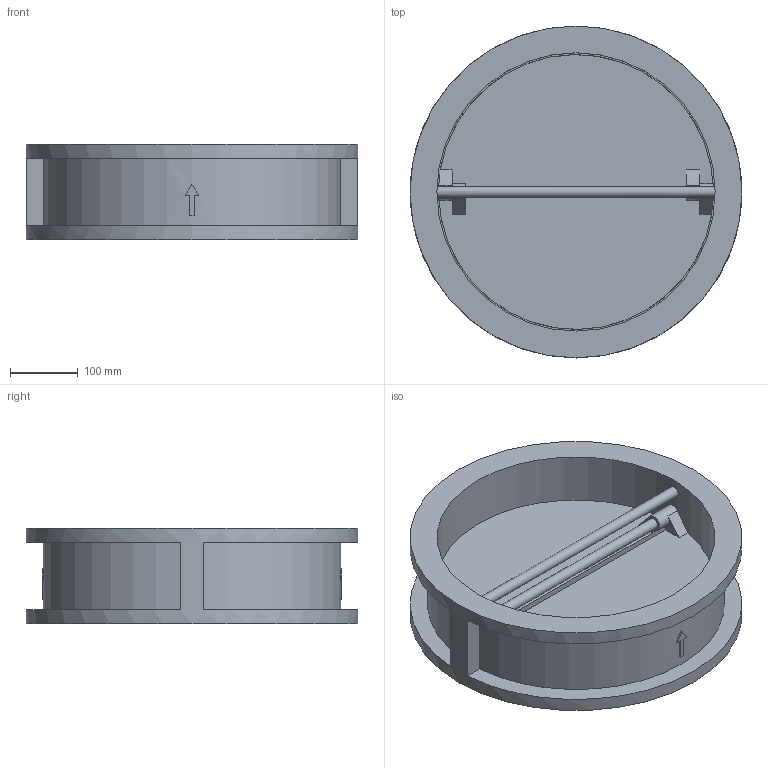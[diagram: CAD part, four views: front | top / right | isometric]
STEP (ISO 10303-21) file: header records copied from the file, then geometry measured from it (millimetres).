
FILE_DESCRIPTION(('STEP AP203'), '1');
FILE_NAME('孰囡囗 钺疣蝽 溻篚耱忸瘅囹 戾骠豚眦邂 010C DN400', '', ('UNSPECIFIED'), ('UNSPECIFIED'), 'ASCON STEP Converter 1.6', 'ASCON Math Kernel', '');
FILE_SCHEMA(('CONFIG_CONTROL_DESIGN'));
Length unit declared in the file: millimetre
Bounding box: 489 x 489 x 140 mm (x, y, z)
Volume: 6867203.5 mm3; surface area: 916336.5 mm2
Topology: 1 solids, 1 shells, 75 faces, 210 edges, 138 vertices
Faces by surface type: plane 58, cylinder 16, cone 1
Full cylindrical faces by diameter (mm): 16 x4, 410 x1, 489 x1
Entity records: 4333 total; most frequent: CARTESIAN_POINT 1795, ORIENTED_EDGE 404, DIRECTION 370, EDGE_CURVE 202, VERTEX_POINT 138, LINE 130, VECTOR 130, AXIS2_PLACEMENT_3D 120
